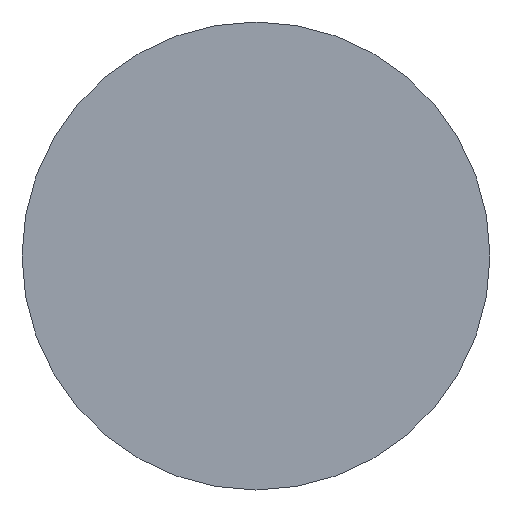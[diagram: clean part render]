
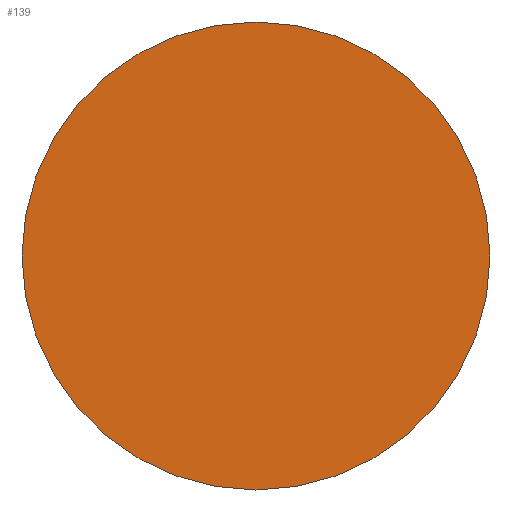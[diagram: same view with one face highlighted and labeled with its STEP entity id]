
A CAD part, left-side view. The second image highlights one B-rep face of the part: STEP entity #139.
In plain terms, the highlighted planar face has unit normal (-1, 0, 0).
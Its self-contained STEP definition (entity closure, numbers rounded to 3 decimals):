
#2 = DIRECTION ( 'NONE',  ( -1., 0., 0. ) ) ;
#3 = DIRECTION ( 'NONE',  ( 0., 0., 1. ) ) ;
#9 = VERTEX_POINT ( 'NONE', #135 ) ;
#11 = PLANE ( 'NONE',  #123 ) ;
#15 = CARTESIAN_POINT ( 'NONE',  ( -149.5, 0., 0. ) ) ;
#27 = DIRECTION ( 'NONE',  ( -1., 0., 0. ) ) ;
#29 = DIRECTION ( 'NONE',  ( 0., 0., 1. ) ) ;
#31 = CARTESIAN_POINT ( 'NONE',  ( -149.5, 0., 0. ) ) ;
#33 = CARTESIAN_POINT ( 'NONE',  ( -149.5, 0., -5.5 ) ) ;
#34 = DIRECTION ( 'NONE',  ( 0., 0., 1. ) ) ;
#35 = DIRECTION ( 'NONE',  ( -1., 0., 0. ) ) ;
#40 = VERTEX_POINT ( 'NONE', #33 ) ;
#69 = FACE_OUTER_BOUND ( 'NONE', #73, .T. ) ;
#73 = EDGE_LOOP ( 'NONE', ( #83, #74 ) ) ;
#74 = ORIENTED_EDGE ( 'NONE', *, *, #119, .T. ) ;
#83 = ORIENTED_EDGE ( 'NONE', *, *, #107, .T. ) ;
#90 = CIRCLE ( 'NONE', #108, 5.5 ) ;
#91 = CIRCLE ( 'NONE', #112, 5.5 ) ;
#107 = EDGE_CURVE ( 'NONE', #9, #40, #91, .T. ) ;
#108 = AXIS2_PLACEMENT_3D ( 'NONE', #136, #2, #3 ) ;
#112 = AXIS2_PLACEMENT_3D ( 'NONE', #31, #35, #34 ) ;
#119 = EDGE_CURVE ( 'NONE', #40, #9, #90, .T. ) ;
#123 = AXIS2_PLACEMENT_3D ( 'NONE', #15, #27, #29 ) ;
#135 = CARTESIAN_POINT ( 'NONE',  ( -149.5, 0., 5.5 ) ) ;
#136 = CARTESIAN_POINT ( 'NONE',  ( -149.5, 0., 0. ) ) ;
#139 = ADVANCED_FACE ( 'NONE', ( #69 ), #11, .T. ) ;
